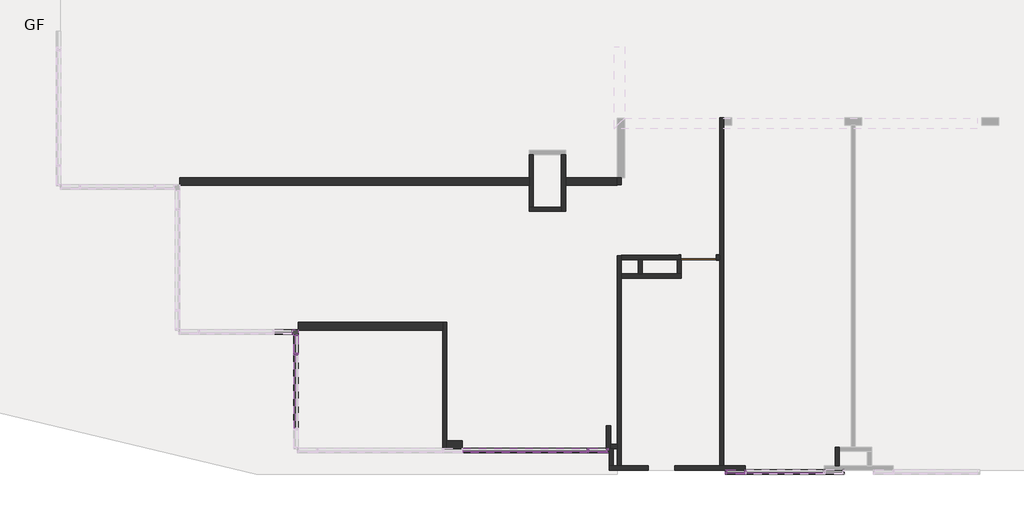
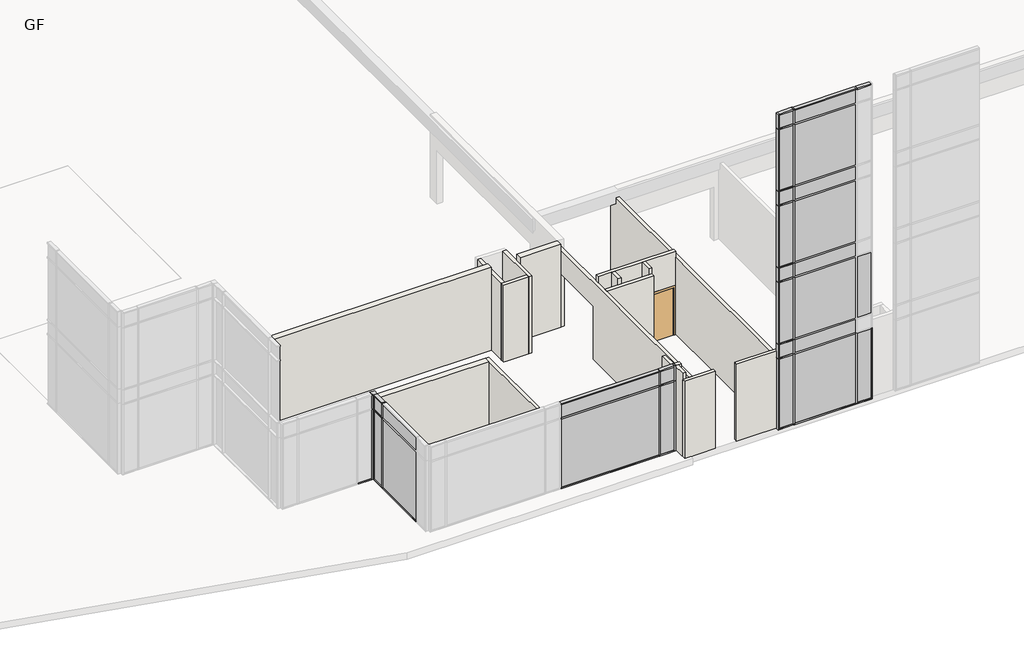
# One storey, part 3 of 23: 50 members, 26 plates, 20 walls, 1 door.
"""IFC4 building model written with IfcOpenShell, lengths in millimetres."""

from ifc_helpers import new_model, si_unit, frame, origin, place, context, project, spatial, polyline, outline, extrude, faceted_brep, transform, mapped, element, save
from components import m_single_flush_d_1200x2150_085a39eb, l_corner_mullion_l_mullion_1_2b73dffd, l_corner_mullion_l_mullion_1_b99bcffd, rectangular_mullion_50_x_150mm_64d38db8, rectangular_mullion_50_x_150mm_68b3818a, rectangular_mullion_50_x_150mm_b34d1ea9, rectangular_mullion_50_x_150mm_0240cd64, rectangular_mullion_50_x_150mm_350c86c2, rectangular_mullion_50_x_150mm_f245f1eb, rectangular_mullion_50_x_150mm_d11e3bb4, rectangular_mullion_50_x_150mm_7d543e93, rectangular_mullion_50_x_150mm_9e0f1e24, rectangular_mullion_50_x_150mm_a95743fc, rectangular_mullion_50_x_150mm_dbb82e9e, rectangular_mullion_50_x_150mm_9b8962c0, rectangular_mullion_50_x_150mm_32aaa733, rectangular_mullion_50_x_150mm_eae7d4bc, rectangular_mullion_50_x_150mm_8786dd09, rectangular_mullion_50_x_150mm_eaf4cf72, system_panel_glazed_24812111, system_panel_glazed_f9f902e6, system_panel_glazed_bf1ddb54, system_panel_glazed_6ff5b55b, system_panel_glazed_2a2db0e8, system_panel_glazed_93ed122c, system_panel_glazed_c1421171, system_panel_glazed_a7232eb8, system_panel_glazed_2ee935f9, system_panel_glazed_98bb05ca, system_panel_glazed_9694b00d, system_panel_glazed_bcfc8d05, system_panel_glazed_5b8ccad9

model = new_model("IFC4")

# Units and contexts
model_context = context("Model", 3, world=origin())
ifc_project = project(units=[si_unit("LENGTHUNIT", "METRE", prefix="MILLI")], contexts=[model_context])

# Site, building, storey
site = spatial("IfcSite", under=ifc_project)
building = spatial("IfcBuilding", under=site)
storey = spatial("IfcBuildingStorey", under=building, Name="GF", Elevation=900.0)

# Door
placement = place(None, origin())
m_single_flush_d_1200x2150_shape = m_single_flush_d_1200x2150_085a39eb(model_context)
element("IfcDoor", 1, ObjectType="M_Single-Flush : D-1200x2150", at=placement, inside=storey, context=model_context, shape_type="MappedRepresentation", body=[
    mapped(m_single_flush_d_1200x2150_shape, transform((-18037.5865899, -18671.6148653, 900.0), x_axis=(1.0, 0.0, 0.0), y_axis=(0.0, 1.0, 0.0), z_axis=(0.0, 0.0, 1.0))),
])

# Members
l_corner_mullion_l_mullion_1_shape = l_corner_mullion_l_mullion_1_2b73dffd(model_context)
element("IfcMember", 2, ObjectType="L Corner Mullion : L Mullion 1", at=placement, inside=storey, context=model_context, shape_type="MappedRepresentation", body=[
    mapped(l_corner_mullion_l_mullion_1_shape, transform((-31612.5865899, -21172.6148653, 4750.0), x_axis=(0.0, 1.0, 0.0), y_axis=(-1.0, 0.0, 0.0), z_axis=(0.0, 0.0, 1.0))),
])
l_corner_mullion_l_mullion_1_2_shape = l_corner_mullion_l_mullion_1_b99bcffd(model_context)
element("IfcMember", 3, ObjectType="L Corner Mullion : L Mullion 1", at=placement, inside=storey, context=model_context, shape_type="MappedRepresentation", body=[
    mapped(l_corner_mullion_l_mullion_1_2_shape, transform((-31612.5865899, -21172.6148653, 4075.0), x_axis=(0.0, 1.0, 0.0), y_axis=(-1.0, 0.0, 0.0), z_axis=(0.0, 0.0, 1.0))),
])
rectangular_mullion_50_x_150mm_shape = rectangular_mullion_50_x_150mm_64d38db8(model_context)
element("IfcMember", 4, ObjectType="Rectangular Mullion : 50 x 150mm", at=placement, inside=storey, context=model_context, shape_type="MappedRepresentation", body=[
    mapped(rectangular_mullion_50_x_150mm_shape, transform((-13172.5865899, -25897.6148653, 15125.0), x_axis=(0.0, 0.0, 1.0), y_axis=(0.0, -1.0, 0.0), z_axis=(1.0, 0.0, 0.0))),
])
element("IfcMember", 5, ObjectType="Rectangular Mullion : 50 x 150mm", at=placement, inside=storey, context=model_context, shape_type="MappedRepresentation", body=[
    mapped(rectangular_mullion_50_x_150mm_shape, transform((-16487.5865899, -25897.6148653, 15125.0), x_axis=(0.0, 0.0, 1.0), y_axis=(0.0, -1.0, 0.0), z_axis=(1.0, 0.0, 0.0))),
])
element("IfcMember", 6, ObjectType="Rectangular Mullion : 50 x 150mm", at=placement, inside=storey, context=model_context, shape_type="MappedRepresentation", body=[
    mapped(rectangular_mullion_50_x_150mm_shape, transform((-17087.5865899, -25897.6148653, 900.0), x_axis=(0.0, 0.0, -1.0), y_axis=(0.0, -1.0, 0.0), z_axis=(-1.0, 0.0, 0.0))),
])
element("IfcMember", 7, ObjectType="Rectangular Mullion : 50 x 150mm", at=placement, inside=storey, context=model_context, shape_type="MappedRepresentation", body=[
    mapped(rectangular_mullion_50_x_150mm_shape, transform((-13772.5865899, -25897.6148653, 900.0), x_axis=(0.0, 0.0, -1.0), y_axis=(0.0, -1.0, 0.0), z_axis=(-1.0, 0.0, 0.0))),
])
rectangular_mullion_50_x_150mm_2_shape = rectangular_mullion_50_x_150mm_68b3818a(model_context)
element("IfcMember", 8, ObjectType="Rectangular Mullion : 50 x 150mm", at=placement, inside=storey, context=model_context, shape_type="MappedRepresentation", body=[
    mapped(rectangular_mullion_50_x_150mm_2_shape, transform((-16487.5865899, -25897.6148653, 4750.0), x_axis=(0.0, 0.0, 1.0), y_axis=(0.0, -1.0, 0.0), z_axis=(1.0, 0.0, 0.0))),
])
element("IfcMember", 9, ObjectType="Rectangular Mullion : 50 x 150mm", at=placement, inside=storey, context=model_context, shape_type="MappedRepresentation", body=[
    mapped(rectangular_mullion_50_x_150mm_2_shape, transform((-16487.5865899, -25897.6148653, 4100.0), x_axis=(0.0, 0.0, 1.0), y_axis=(0.0, -1.0, 0.0), z_axis=(1.0, 0.0, 0.0))),
])
element("IfcMember", 10, ObjectType="Rectangular Mullion : 50 x 150mm", at=placement, inside=storey, context=model_context, shape_type="MappedRepresentation", body=[
    mapped(rectangular_mullion_50_x_150mm_2_shape, transform((-16487.5865899, -25897.6148653, 8200.0), x_axis=(0.0, 0.0, 1.0), y_axis=(0.0, -1.0, 0.0), z_axis=(1.0, 0.0, 0.0))),
])
element("IfcMember", 11, ObjectType="Rectangular Mullion : 50 x 150mm", at=placement, inside=storey, context=model_context, shape_type="MappedRepresentation", body=[
    mapped(rectangular_mullion_50_x_150mm_2_shape, transform((-16487.5865899, -25897.6148653, 11650.0), x_axis=(0.0, 0.0, 1.0), y_axis=(0.0, -1.0, 0.0), z_axis=(1.0, 0.0, 0.0))),
])
element("IfcMember", 12, ObjectType="Rectangular Mullion : 50 x 150mm", at=placement, inside=storey, context=model_context, shape_type="MappedRepresentation", body=[
    mapped(rectangular_mullion_50_x_150mm_2_shape, transform((-16487.5865899, -25897.6148653, 7550.0), x_axis=(0.0, 0.0, 1.0), y_axis=(0.0, -1.0, 0.0), z_axis=(1.0, 0.0, 0.0))),
])
element("IfcMember", 13, ObjectType="Rectangular Mullion : 50 x 150mm", at=placement, inside=storey, context=model_context, shape_type="MappedRepresentation", body=[
    mapped(rectangular_mullion_50_x_150mm_2_shape, transform((-16487.5865899, -25897.6148653, 11000.0), x_axis=(0.0, 0.0, 1.0), y_axis=(0.0, -1.0, 0.0), z_axis=(1.0, 0.0, 0.0))),
])
element("IfcMember", 14, ObjectType="Rectangular Mullion : 50 x 150mm", at=placement, inside=storey, context=model_context, shape_type="MappedRepresentation", body=[
    mapped(rectangular_mullion_50_x_150mm_2_shape, transform((-16487.5865899, -25897.6148653, 14450.0), x_axis=(0.0, 0.0, 1.0), y_axis=(0.0, -1.0, 0.0), z_axis=(1.0, 0.0, 0.0))),
])
element("IfcMember", 15, ObjectType="Rectangular Mullion : 50 x 150mm", at=placement, inside=storey, context=model_context, shape_type="MappedRepresentation", body=[
    mapped(rectangular_mullion_50_x_150mm_2_shape, transform((-31612.5865899, -21897.6148653, 4075.0), x_axis=(0.0, 0.0, 1.0), y_axis=(-1.0, 0.0, 0.0), z_axis=(0.0, -1.0, 0.0))),
])
element("IfcMember", 16, ObjectType="Rectangular Mullion : 50 x 150mm", at=placement, inside=storey, context=model_context, shape_type="MappedRepresentation", body=[
    mapped(rectangular_mullion_50_x_150mm_shape, transform((-31737.5865899, -21172.6148653, 900.0), x_axis=(0.0, 0.0, -1.0), y_axis=(0.0, 1.0, 0.0), z_axis=(1.0, 0.0, 0.0))),
])
element("IfcMember", 17, ObjectType="Rectangular Mullion : 50 x 150mm", at=placement, inside=storey, context=model_context, shape_type="MappedRepresentation", body=[
    mapped(rectangular_mullion_50_x_150mm_2_shape, transform((-21742.5865899, -25172.6148653, 4075.0), x_axis=(0.0, 0.0, 1.0), y_axis=(0.0, 1.0, 0.0), z_axis=(-1.0, 0.0, 0.0))),
])
element("IfcMember", 18, ObjectType="Rectangular Mullion : 50 x 150mm", at=placement, inside=storey, context=model_context, shape_type="MappedRepresentation", body=[
    mapped(rectangular_mullion_50_x_150mm_shape, transform((-21742.5865899, -25172.6148653, 4750.0), x_axis=(0.0, 0.0, 1.0), y_axis=(0.0, 1.0, 0.0), z_axis=(-1.0, 0.0, 0.0))),
])
element("IfcMember", 19, ObjectType="Rectangular Mullion : 50 x 150mm", at=placement, inside=storey, context=model_context, shape_type="MappedRepresentation", body=[
    mapped(rectangular_mullion_50_x_150mm_shape, transform((-21142.5865899, -25172.6148653, 900.0), x_axis=(0.0, 0.0, -1.0), y_axis=(0.0, 1.0, 0.0), z_axis=(1.0, 0.0, 0.0))),
])
rectangular_mullion_50_x_150mm_3_shape = rectangular_mullion_50_x_150mm_b34d1ea9(model_context)
element("IfcMember", 20, ObjectType="Rectangular Mullion : 50 x 150mm", at=placement, inside=storey, context=model_context, shape_type="MappedRepresentation", body=[
    mapped(rectangular_mullion_50_x_150mm_3_shape, transform((-25977.5865899, -25172.6148653, 4750.0), x_axis=(0.0, 0.0, 1.0), y_axis=(0.0, 1.0, 0.0), z_axis=(-1.0, 0.0, 0.0))),
])
element("IfcMember", 21, ObjectType="Rectangular Mullion : 50 x 150mm", at=placement, inside=storey, context=model_context, shape_type="MappedRepresentation", body=[
    mapped(rectangular_mullion_50_x_150mm_3_shape, transform((-21792.5865899, -25172.6148653, 900.0), x_axis=(0.0, 0.0, -1.0), y_axis=(0.0, 1.0, 0.0), z_axis=(1.0, 0.0, 0.0))),
])
element("IfcMember", 22, ObjectType="Rectangular Mullion : 50 x 150mm", at=placement, inside=storey, context=model_context, shape_type="MappedRepresentation", body=[
    mapped(rectangular_mullion_50_x_150mm_shape, transform((-31612.5865899, -21897.6148653, 4750.0), x_axis=(0.0, 0.0, 1.0), y_axis=(-1.0, 0.0, 0.0), z_axis=(0.0, -1.0, 0.0))),
])
element("IfcMember", 23, ObjectType="Rectangular Mullion : 50 x 150mm", at=placement, inside=storey, context=model_context, shape_type="MappedRepresentation", body=[
    mapped(rectangular_mullion_50_x_150mm_shape, transform((-31612.5865899, -21297.6148653, 900.0), x_axis=(0.0, 0.0, -1.0), y_axis=(-1.0, 0.0, 0.0), z_axis=(0.0, 1.0, 0.0))),
])
rectangular_mullion_50_x_150mm_4_shape = rectangular_mullion_50_x_150mm_0240cd64(model_context)
element("IfcMember", 24, ObjectType="Rectangular Mullion : 50 x 150mm", at=placement, inside=storey, context=model_context, shape_type="MappedRepresentation", body=[
    mapped(rectangular_mullion_50_x_150mm_4_shape, transform((-31612.5865899, -21947.6148653, 900.0), x_axis=(0.0, 0.0, -1.0), y_axis=(-1.0, 0.0, 0.0), z_axis=(0.0, 1.0, 0.0))),
])
rectangular_mullion_50_x_150mm_5_shape = rectangular_mullion_50_x_150mm_350c86c2(model_context)
element("IfcMember", 25, ObjectType="Rectangular Mullion : 50 x 150mm", at=placement, inside=storey, context=model_context, shape_type="MappedRepresentation", body=[
    mapped(rectangular_mullion_50_x_150mm_5_shape, transform((-16437.5865899, -25897.6148653, 900.0), x_axis=(0.0, 0.0, -1.0), y_axis=(0.0, -1.0, 0.0), z_axis=(-1.0, 0.0, 0.0))),
])
rectangular_mullion_50_x_150mm_6_shape = rectangular_mullion_50_x_150mm_f245f1eb(model_context)
element("IfcMember", 26, ObjectType="Rectangular Mullion : 50 x 150mm", at=placement, inside=storey, context=model_context, shape_type="MappedRepresentation", body=[
    mapped(rectangular_mullion_50_x_150mm_6_shape, transform((-16462.5865899, -25897.6148653, 900.0), x_axis=(1.0, 0.0, 0.0), y_axis=(0.0, -1.0, 0.0), z_axis=(0.0, 0.0, -1.0))),
])
element("IfcMember", 27, ObjectType="Rectangular Mullion : 50 x 150mm", at=placement, inside=storey, context=model_context, shape_type="MappedRepresentation", body=[
    mapped(rectangular_mullion_50_x_150mm_6_shape, transform((-13797.5865899, -25897.6148653, 900.0), x_axis=(1.0, 0.0, 0.0), y_axis=(0.0, -1.0, 0.0), z_axis=(0.0, 0.0, -1.0))),
])
element("IfcMember", 28, ObjectType="Rectangular Mullion : 50 x 150mm", at=placement, inside=storey, context=model_context, shape_type="MappedRepresentation", body=[
    mapped(rectangular_mullion_50_x_150mm_5_shape, transform((-13822.5865899, -25897.6148653, 15125.0), x_axis=(0.0, 0.0, 1.0), y_axis=(0.0, -1.0, 0.0), z_axis=(1.0, 0.0, 0.0))),
])
rectangular_mullion_50_x_150mm_7_shape = rectangular_mullion_50_x_150mm_d11e3bb4(model_context)
element("IfcMember", 29, ObjectType="Rectangular Mullion : 50 x 150mm", at=placement, inside=storey, context=model_context, shape_type="MappedRepresentation", body=[
    mapped(rectangular_mullion_50_x_150mm_7_shape, transform((-16462.5865899, -25897.6148653, 4750.0), x_axis=(1.0, 0.0, 0.0), y_axis=(0.0, -1.0, 0.0), z_axis=(0.0, 0.0, -1.0))),
])
element("IfcMember", 30, ObjectType="Rectangular Mullion : 50 x 150mm", at=placement, inside=storey, context=model_context, shape_type="MappedRepresentation", body=[
    mapped(rectangular_mullion_50_x_150mm_7_shape, transform((-16462.5865899, -25897.6148653, 8200.0), x_axis=(1.0, 0.0, 0.0), y_axis=(0.0, -1.0, 0.0), z_axis=(0.0, 0.0, -1.0))),
])
element("IfcMember", 31, ObjectType="Rectangular Mullion : 50 x 150mm", at=placement, inside=storey, context=model_context, shape_type="MappedRepresentation", body=[
    mapped(rectangular_mullion_50_x_150mm_7_shape, transform((-16462.5865899, -25897.6148653, 11650.0), x_axis=(1.0, 0.0, 0.0), y_axis=(0.0, -1.0, 0.0), z_axis=(0.0, 0.0, -1.0))),
])
rectangular_mullion_50_x_150mm_8_shape = rectangular_mullion_50_x_150mm_7d543e93(model_context)
element("IfcMember", 32, ObjectType="Rectangular Mullion : 50 x 150mm", at=placement, inside=storey, context=model_context, shape_type="MappedRepresentation", body=[
    mapped(rectangular_mullion_50_x_150mm_8_shape, transform((-16462.5865899, -25897.6148653, 4100.0), x_axis=(1.0, 0.0, 0.0), y_axis=(0.0, -1.0, 0.0), z_axis=(0.0, 0.0, -1.0))),
])
element("IfcMember", 33, ObjectType="Rectangular Mullion : 50 x 150mm", at=placement, inside=storey, context=model_context, shape_type="MappedRepresentation", body=[
    mapped(rectangular_mullion_50_x_150mm_8_shape, transform((-16462.5865899, -25897.6148653, 7550.0), x_axis=(1.0, 0.0, 0.0), y_axis=(0.0, -1.0, 0.0), z_axis=(0.0, 0.0, -1.0))),
])
element("IfcMember", 34, ObjectType="Rectangular Mullion : 50 x 150mm", at=placement, inside=storey, context=model_context, shape_type="MappedRepresentation", body=[
    mapped(rectangular_mullion_50_x_150mm_8_shape, transform((-16462.5865899, -25897.6148653, 11000.0), x_axis=(1.0, 0.0, 0.0), y_axis=(0.0, -1.0, 0.0), z_axis=(0.0, 0.0, -1.0))),
])
rectangular_mullion_50_x_150mm_9_shape = rectangular_mullion_50_x_150mm_9e0f1e24(model_context)
element("IfcMember", 35, ObjectType="Rectangular Mullion : 50 x 150mm", at=placement, inside=storey, context=model_context, shape_type="MappedRepresentation", body=[
    mapped(rectangular_mullion_50_x_150mm_9_shape, transform((-16462.5865899, -25897.6148653, 14450.0), x_axis=(1.0, 0.0, 0.0), y_axis=(0.0, -1.0, 0.0), z_axis=(0.0, 0.0, -1.0))),
])
element("IfcMember", 36, ObjectType="Rectangular Mullion : 50 x 150mm", at=placement, inside=storey, context=model_context, shape_type="MappedRepresentation", body=[
    mapped(rectangular_mullion_50_x_150mm_9_shape, transform((-31612.5865899, -21922.6148653, 4075.0), x_axis=(0.0, -1.0, 0.0), y_axis=(-1.0, 0.0, 0.0), z_axis=(0.0, 0.0, -1.0))),
])
rectangular_mullion_50_x_150mm_10_shape = rectangular_mullion_50_x_150mm_a95743fc(model_context)
element("IfcMember", 37, ObjectType="Rectangular Mullion : 50 x 150mm", at=placement, inside=storey, context=model_context, shape_type="MappedRepresentation", body=[
    mapped(rectangular_mullion_50_x_150mm_10_shape, transform((-13122.5865899, -25897.6148653, 900.0), x_axis=(1.0, 0.0, 0.0), y_axis=(0.0, -1.0, 0.0), z_axis=(0.0, 0.0, -1.0))),
])
rectangular_mullion_50_x_150mm_11_shape = rectangular_mullion_50_x_150mm_dbb82e9e(model_context)
element("IfcMember", 38, ObjectType="Rectangular Mullion : 50 x 150mm", at=placement, inside=storey, context=model_context, shape_type="MappedRepresentation", body=[
    mapped(rectangular_mullion_50_x_150mm_11_shape, transform((-17137.5865899, -25897.6148653, 15125.0), x_axis=(-1.0, 0.0, 0.0), y_axis=(0.0, -1.0, 0.0), z_axis=(0.0, 0.0, 1.0))),
])
rectangular_mullion_50_x_150mm_12_shape = rectangular_mullion_50_x_150mm_9b8962c0(model_context)
element("IfcMember", 39, ObjectType="Rectangular Mullion : 50 x 150mm", at=placement, inside=storey, context=model_context, shape_type="MappedRepresentation", body=[
    mapped(rectangular_mullion_50_x_150mm_12_shape, transform((-17137.5865899, -25897.6148653, 4750.0), x_axis=(-1.0, 0.0, 0.0), y_axis=(0.0, -1.0, 0.0), z_axis=(0.0, 0.0, 1.0))),
])
element("IfcMember", 40, ObjectType="Rectangular Mullion : 50 x 150mm", at=placement, inside=storey, context=model_context, shape_type="MappedRepresentation", body=[
    mapped(rectangular_mullion_50_x_150mm_12_shape, transform((-17137.5865899, -25897.6148653, 8200.0), x_axis=(-1.0, 0.0, 0.0), y_axis=(0.0, -1.0, 0.0), z_axis=(0.0, 0.0, 1.0))),
])
element("IfcMember", 41, ObjectType="Rectangular Mullion : 50 x 150mm", at=placement, inside=storey, context=model_context, shape_type="MappedRepresentation", body=[
    mapped(rectangular_mullion_50_x_150mm_12_shape, transform((-17137.5865899, -25897.6148653, 11650.0), x_axis=(-1.0, 0.0, 0.0), y_axis=(0.0, -1.0, 0.0), z_axis=(0.0, 0.0, 1.0))),
])
element("IfcMember", 42, ObjectType="Rectangular Mullion : 50 x 150mm", at=placement, inside=storey, context=model_context, shape_type="MappedRepresentation", body=[
    mapped(rectangular_mullion_50_x_150mm_10_shape, transform((-17137.5865899, -25897.6148653, 4100.0), x_axis=(-1.0, 0.0, 0.0), y_axis=(0.0, -1.0, 0.0), z_axis=(0.0, 0.0, 1.0))),
])
rectangular_mullion_50_x_150mm_13_shape = rectangular_mullion_50_x_150mm_32aaa733(model_context)
element("IfcMember", 43, ObjectType="Rectangular Mullion : 50 x 150mm", at=placement, inside=storey, context=model_context, shape_type="MappedRepresentation", body=[
    mapped(rectangular_mullion_50_x_150mm_13_shape, transform((-17137.5865899, -25897.6148653, 7550.0), x_axis=(-1.0, 0.0, 0.0), y_axis=(0.0, -1.0, 0.0), z_axis=(0.0, 0.0, 1.0))),
])
element("IfcMember", 44, ObjectType="Rectangular Mullion : 50 x 150mm", at=placement, inside=storey, context=model_context, shape_type="MappedRepresentation", body=[
    mapped(rectangular_mullion_50_x_150mm_13_shape, transform((-17137.5865899, -25897.6148653, 11000.0), x_axis=(-1.0, 0.0, 0.0), y_axis=(0.0, -1.0, 0.0), z_axis=(0.0, 0.0, 1.0))),
])
element("IfcMember", 45, ObjectType="Rectangular Mullion : 50 x 150mm", at=placement, inside=storey, context=model_context, shape_type="MappedRepresentation", body=[
    mapped(rectangular_mullion_50_x_150mm_13_shape, transform((-17137.5865899, -25897.6148653, 14450.0), x_axis=(-1.0, 0.0, 0.0), y_axis=(0.0, -1.0, 0.0), z_axis=(0.0, 0.0, 1.0))),
])
element("IfcMember", 46, ObjectType="Rectangular Mullion : 50 x 150mm", at=placement, inside=storey, context=model_context, shape_type="MappedRepresentation", body=[
    mapped(rectangular_mullion_50_x_150mm_11_shape, transform((-21092.5865899, -25172.6148653, 4750.0), x_axis=(1.0, 0.0, 0.0), y_axis=(0.0, 1.0, 0.0), z_axis=(0.0, 0.0, 1.0))),
])
element("IfcMember", 47, ObjectType="Rectangular Mullion : 50 x 150mm", at=placement, inside=storey, context=model_context, shape_type="MappedRepresentation", body=[
    mapped(rectangular_mullion_50_x_150mm_9_shape, transform((-21767.5865899, -25172.6148653, 4075.0), x_axis=(-1.0, 0.0, 0.0), y_axis=(0.0, 1.0, 0.0), z_axis=(0.0, 0.0, -1.0))),
])
rectangular_mullion_50_x_150mm_14_shape = rectangular_mullion_50_x_150mm_eae7d4bc(model_context)
element("IfcMember", 48, ObjectType="Rectangular Mullion : 50 x 150mm", at=placement, inside=storey, context=model_context, shape_type="MappedRepresentation", body=[
    mapped(rectangular_mullion_50_x_150mm_14_shape, transform((-21767.5865899, -25172.6148653, 900.0), x_axis=(-1.0, 0.0, 0.0), y_axis=(0.0, 1.0, 0.0), z_axis=(0.0, 0.0, -1.0))),
])
element("IfcMember", 49, ObjectType="Rectangular Mullion : 50 x 150mm", at=placement, inside=storey, context=model_context, shape_type="MappedRepresentation", body=[
    mapped(rectangular_mullion_50_x_150mm_14_shape, transform((-31612.5865899, -21922.6148653, 900.0), x_axis=(0.0, -1.0, 0.0), y_axis=(-1.0, 0.0, 0.0), z_axis=(0.0, 0.0, -1.0))),
])
rectangular_mullion_50_x_150mm_15_shape = rectangular_mullion_50_x_150mm_8786dd09(model_context)
element("IfcMember", 50, ObjectType="Rectangular Mullion : 50 x 150mm", at=placement, inside=storey, context=model_context, shape_type="MappedRepresentation", body=[
    mapped(rectangular_mullion_50_x_150mm_15_shape, transform((-25977.5865899, -25172.6148653, 4075.0), x_axis=(0.0, 0.0, 1.0), y_axis=(0.0, 1.0, 0.0), z_axis=(-1.0, 0.0, 0.0))),
])
rectangular_mullion_50_x_150mm_16_shape = rectangular_mullion_50_x_150mm_eaf4cf72(model_context)
element("IfcMember", 51, ObjectType="Rectangular Mullion : 50 x 150mm", at=placement, inside=storey, context=model_context, shape_type="MappedRepresentation", body=[
    mapped(rectangular_mullion_50_x_150mm_16_shape, transform((-21092.5865899, -25172.6148653, 4075.0), x_axis=(1.0, 0.0, 0.0), y_axis=(0.0, 1.0, 0.0), z_axis=(0.0, 0.0, 1.0))),
])

# Plates
system_panel_glazed_shape = system_panel_glazed_24812111(model_context)
element("IfcPlate", 52, ObjectType="System Panel : Glazed", at=placement, inside=storey, context=model_context, shape_type="MappedRepresentation", body=[
    mapped(system_panel_glazed_shape, transform((-21442.5865899, -25172.6148653, 4100.0), x_axis=(-1.0, 0.0, 0.0), y_axis=(0.0, -1.0, 0.0), z_axis=(0.0, 0.0, 1.0))),
])
system_panel_glazed_2_shape = system_panel_glazed_f9f902e6(model_context)
element("IfcPlate", 53, ObjectType="System Panel : Glazed", at=placement, inside=storey, context=model_context, shape_type="MappedRepresentation", body=[
    mapped(system_panel_glazed_2_shape, transform((-16787.5865899, -25897.6148653, 950.0), x_axis=(1.0, 0.0, 0.0), y_axis=(0.0, 1.0, 0.0), z_axis=(0.0, 0.0, 1.0))),
])
element("IfcPlate", 54, ObjectType="System Panel : Glazed", at=placement, inside=storey, context=model_context, shape_type="MappedRepresentation", body=[
    mapped(system_panel_glazed_2_shape, transform((-13472.5865899, -25897.6148653, 950.0), x_axis=(1.0, 0.0, 0.0), y_axis=(0.0, 1.0, 0.0), z_axis=(0.0, 0.0, 1.0))),
])
system_panel_glazed_3_shape = system_panel_glazed_bf1ddb54(model_context)
element("IfcPlate", 55, ObjectType="System Panel : Glazed", at=placement, inside=storey, context=model_context, shape_type="MappedRepresentation", body=[
    mapped(system_panel_glazed_3_shape, transform((-15130.0865899, -25897.6148653, 950.0), x_axis=(1.0, 0.0, 0.0), y_axis=(0.0, 1.0, 0.0), z_axis=(0.0, 0.0, 1.0))),
])
system_panel_glazed_4_shape = system_panel_glazed_6ff5b55b(model_context)
element("IfcPlate", 56, ObjectType="System Panel : Glazed", at=placement, inside=storey, context=model_context, shape_type="MappedRepresentation", body=[
    mapped(system_panel_glazed_4_shape, transform((-16787.5865899, -25897.6148653, 4775.0), x_axis=(1.0, 0.0, 0.0), y_axis=(0.0, 1.0, 0.0), z_axis=(0.0, 0.0, 1.0))),
])
element("IfcPlate", 57, ObjectType="System Panel : Glazed", at=placement, inside=storey, context=model_context, shape_type="MappedRepresentation", body=[
    mapped(system_panel_glazed_4_shape, transform((-13472.5865899, -25897.6148653, 4775.0), x_axis=(1.0, 0.0, 0.0), y_axis=(0.0, 1.0, 0.0), z_axis=(0.0, 0.0, 1.0))),
])
element("IfcPlate", 58, ObjectType="System Panel : Glazed", at=placement, inside=storey, context=model_context, shape_type="MappedRepresentation", body=[
    mapped(system_panel_glazed_4_shape, transform((-16787.5865899, -25897.6148653, 8225.0), x_axis=(1.0, 0.0, 0.0), y_axis=(0.0, 1.0, 0.0), z_axis=(0.0, 0.0, 1.0))),
])
element("IfcPlate", 59, ObjectType="System Panel : Glazed", at=placement, inside=storey, context=model_context, shape_type="MappedRepresentation", body=[
    mapped(system_panel_glazed_4_shape, transform((-16787.5865899, -25897.6148653, 11675.0), x_axis=(1.0, 0.0, 0.0), y_axis=(0.0, 1.0, 0.0), z_axis=(0.0, 0.0, 1.0))),
])
system_panel_glazed_5_shape = system_panel_glazed_2a2db0e8(model_context)
element("IfcPlate", 60, ObjectType="System Panel : Glazed", at=placement, inside=storey, context=model_context, shape_type="MappedRepresentation", body=[
    mapped(system_panel_glazed_5_shape, transform((-15130.0865899, -25897.6148653, 4775.0), x_axis=(1.0, 0.0, 0.0), y_axis=(0.0, 1.0, 0.0), z_axis=(0.0, 0.0, 1.0))),
])
element("IfcPlate", 61, ObjectType="System Panel : Glazed", at=placement, inside=storey, context=model_context, shape_type="MappedRepresentation", body=[
    mapped(system_panel_glazed_5_shape, transform((-15130.0865899, -25897.6148653, 8225.0), x_axis=(1.0, 0.0, 0.0), y_axis=(0.0, 1.0, 0.0), z_axis=(0.0, 0.0, 1.0))),
])
element("IfcPlate", 62, ObjectType="System Panel : Glazed", at=placement, inside=storey, context=model_context, shape_type="MappedRepresentation", body=[
    mapped(system_panel_glazed_5_shape, transform((-15130.0865899, -25897.6148653, 11675.0), x_axis=(1.0, 0.0, 0.0), y_axis=(0.0, 1.0, 0.0), z_axis=(0.0, 0.0, 1.0))),
])
system_panel_glazed_6_shape = system_panel_glazed_93ed122c(model_context)
element("IfcPlate", 63, ObjectType="System Panel : Glazed", at=placement, inside=storey, context=model_context, shape_type="MappedRepresentation", body=[
    mapped(system_panel_glazed_6_shape, transform((-16787.5865899, -25897.6148653, 4125.0), x_axis=(1.0, 0.0, 0.0), y_axis=(0.0, 1.0, 0.0), z_axis=(0.0, 0.0, 1.0))),
])
element("IfcPlate", 64, ObjectType="System Panel : Glazed", at=placement, inside=storey, context=model_context, shape_type="MappedRepresentation", body=[
    mapped(system_panel_glazed_6_shape, transform((-16787.5865899, -25897.6148653, 7575.0), x_axis=(1.0, 0.0, 0.0), y_axis=(0.0, 1.0, 0.0), z_axis=(0.0, 0.0, 1.0))),
])
element("IfcPlate", 65, ObjectType="System Panel : Glazed", at=placement, inside=storey, context=model_context, shape_type="MappedRepresentation", body=[
    mapped(system_panel_glazed_6_shape, transform((-16787.5865899, -25897.6148653, 11025.0), x_axis=(1.0, 0.0, 0.0), y_axis=(0.0, 1.0, 0.0), z_axis=(0.0, 0.0, 1.0))),
])
element("IfcPlate", 66, ObjectType="System Panel : Glazed", at=placement, inside=storey, context=model_context, shape_type="MappedRepresentation", body=[
    mapped(system_panel_glazed_6_shape, transform((-16787.5865899, -25897.6148653, 14475.0), x_axis=(1.0, 0.0, 0.0), y_axis=(0.0, 1.0, 0.0), z_axis=(0.0, 0.0, 1.0))),
])
element("IfcPlate", 67, ObjectType="System Panel : Glazed", at=placement, inside=storey, context=model_context, shape_type="MappedRepresentation", body=[
    mapped(system_panel_glazed_6_shape, transform((-31612.5865899, -21597.6148653, 4100.0), x_axis=(0.0, -1.0, 0.0), y_axis=(1.0, 0.0, 0.0), z_axis=(0.0, 0.0, 1.0))),
])
system_panel_glazed_7_shape = system_panel_glazed_c1421171(model_context)
element("IfcPlate", 68, ObjectType="System Panel : Glazed", at=placement, inside=storey, context=model_context, shape_type="MappedRepresentation", body=[
    mapped(system_panel_glazed_7_shape, transform((-15130.0865899, -25897.6148653, 4125.0), x_axis=(1.0, 0.0, 0.0), y_axis=(0.0, 1.0, 0.0), z_axis=(0.0, 0.0, 1.0))),
])
element("IfcPlate", 69, ObjectType="System Panel : Glazed", at=placement, inside=storey, context=model_context, shape_type="MappedRepresentation", body=[
    mapped(system_panel_glazed_7_shape, transform((-15130.0865899, -25897.6148653, 7575.0), x_axis=(1.0, 0.0, 0.0), y_axis=(0.0, 1.0, 0.0), z_axis=(0.0, 0.0, 1.0))),
])
element("IfcPlate", 70, ObjectType="System Panel : Glazed", at=placement, inside=storey, context=model_context, shape_type="MappedRepresentation", body=[
    mapped(system_panel_glazed_7_shape, transform((-15130.0865899, -25897.6148653, 11025.0), x_axis=(1.0, 0.0, 0.0), y_axis=(0.0, 1.0, 0.0), z_axis=(0.0, 0.0, 1.0))),
])
element("IfcPlate", 71, ObjectType="System Panel : Glazed", at=placement, inside=storey, context=model_context, shape_type="MappedRepresentation", body=[
    mapped(system_panel_glazed_7_shape, transform((-15130.0865899, -25897.6148653, 14475.0), x_axis=(1.0, 0.0, 0.0), y_axis=(0.0, 1.0, 0.0), z_axis=(0.0, 0.0, 1.0))),
])
system_panel_glazed_8_shape = system_panel_glazed_a7232eb8(model_context)
element("IfcPlate", 72, ObjectType="System Panel : Glazed", at=placement, inside=storey, context=model_context, shape_type="MappedRepresentation", body=[
    mapped(system_panel_glazed_8_shape, transform((-21442.5865899, -25172.6148653, 950.0), x_axis=(-1.0, 0.0, 0.0), y_axis=(0.0, -1.0, 0.0), z_axis=(0.0, 0.0, 1.0))),
])
system_panel_glazed_9_shape = system_panel_glazed_2ee935f9(model_context)
element("IfcPlate", 73, ObjectType="System Panel : Glazed", at=placement, inside=storey, context=model_context, shape_type="MappedRepresentation", body=[
    mapped(system_panel_glazed_9_shape, transform((-31612.5865899, -21597.6148653, 950.0), x_axis=(0.0, -1.0, 0.0), y_axis=(1.0, 0.0, 0.0), z_axis=(0.0, 0.0, 1.0))),
])
system_panel_glazed_10_shape = system_panel_glazed_98bb05ca(model_context)
element("IfcPlate", 74, ObjectType="System Panel : Glazed", at=placement, inside=storey, context=model_context, shape_type="MappedRepresentation", body=[
    mapped(system_panel_glazed_10_shape, transform((-31612.5865899, -23185.1148653, 950.0), x_axis=(0.0, -1.0, 0.0), y_axis=(1.0, 0.0, 0.0), z_axis=(0.0, 0.0, 1.0))),
])
system_panel_glazed_11_shape = system_panel_glazed_9694b00d(model_context)
element("IfcPlate", 75, ObjectType="System Panel : Glazed", at=placement, inside=storey, context=model_context, shape_type="MappedRepresentation", body=[
    mapped(system_panel_glazed_11_shape, transform((-31612.5865899, -23185.1148653, 4100.0), x_axis=(0.0, -1.0, 0.0), y_axis=(1.0, 0.0, 0.0), z_axis=(0.0, 0.0, 1.0))),
])
system_panel_glazed_12_shape = system_panel_glazed_bcfc8d05(model_context)
element("IfcPlate", 76, ObjectType="System Panel : Glazed", at=placement, inside=storey, context=model_context, shape_type="MappedRepresentation", body=[
    mapped(system_panel_glazed_12_shape, transform((-23885.0865899, -25172.6148653, 950.0), x_axis=(-1.0, 0.0, 0.0), y_axis=(0.0, -1.0, 0.0), z_axis=(0.0, 0.0, 1.0))),
])
system_panel_glazed_13_shape = system_panel_glazed_5b8ccad9(model_context)
element("IfcPlate", 77, ObjectType="System Panel : Glazed", at=placement, inside=storey, context=model_context, shape_type="MappedRepresentation", body=[
    mapped(system_panel_glazed_13_shape, transform((-23885.0865899, -25172.6148653, 4100.0), x_axis=(-1.0, 0.0, 0.0), y_axis=(0.0, -1.0, 0.0), z_axis=(0.0, 0.0, 1.0))),
])

# Walls
element("IfcWall", 78, ObjectType="wall-115", at=placement, inside=storey, context=model_context, shape_type="Brep", body=[
    faceted_brep([(-26525.5865899, -25109.6148653, 900.0), (-26525.5865899, -24852.6148653, 900.0), (-26525.5865899, -20855.6148653, 900.0), (-26525.5865899, -20855.6148653, 4375.0), (-26525.5865899, -24852.6148653, 4375.0), (-26525.5865899, -25109.6148653, 4375.0), (-26667.5865899, -25109.6148653, 900.0), (-26667.5865899, -25109.6148653, 4375.0), (-26667.5865899, -21112.6148653, 4375.0), (-26667.5865899, -20855.6148653, 4375.0), (-26667.5865899, -20855.6148653, 900.0), (-26667.5865899, -21112.6148653, 900.0)], [[[0, 1, 2, 3, 4, 5]], [[6, 7, 8, 9, 10, 11]], [[2, 1, 0, 6, 11, 10]], [[3, 2, 10, 9]], [[0, 5, 7, 6]], [[5, 4, 3, 9, 8, 7]]]),
])
element("IfcWall", 79, ObjectType="wall-115", at=placement, inside=storey, context=model_context, shape_type="Brep", body=[
    faceted_brep([(-17192.5865899, -25692.6148653, 900.0), (-17192.5865899, -14217.6148653, 900.0), (-17192.5865899, -13960.6148653, 900.0), (-17192.5865899, -13960.6148653, 4375.0), (-17192.5865899, -25692.6148653, 4375.0), (-17334.5865899, -25692.6148653, 900.0), (-17334.5865899, -25692.6148653, 4375.0), (-17334.5865899, -13960.6148653, 4375.0), (-17334.5865899, -13960.6148653, 900.0), (-17334.5865899, -18600.6148653, 900.0), (-17334.5865899, -18742.6148653, 900.0)], [[[0, 1, 2, 3, 4]], [[5, 6, 7, 8, 9, 10]], [[2, 1, 0, 5, 10, 9, 8]], [[3, 2, 8, 7]], [[0, 4, 6, 5]], [[4, 3, 7, 6]]]),
])
element("IfcWall", 80, ObjectType="wall-115", at=placement, inside=storey, context=model_context, shape_type="Brep", body=[
    faceted_brep([(-18625.5865899, -19217.6148653, 900.0), (-18767.5865899, -19217.6148653, 900.0), (-19937.5865899, -19217.6148653, 900.0), (-20079.5865899, -19217.6148653, 900.0), (-20640.5865899, -19217.6148653, 900.0), (-20640.5865899, -19217.6148653, 4375.0), (-18625.5865899, -19217.6148653, 4375.0), (-18625.5865899, -19359.6148653, 900.0), (-18625.5865899, -19359.6148653, 4375.0), (-20640.5865899, -19359.6148653, 4375.0), (-20640.5865899, -19359.6148653, 900.0)], [[[0, 1, 2, 3, 4, 5, 6]], [[7, 8, 9, 10]], [[4, 3, 2, 1, 0, 7, 10]], [[0, 6, 8, 7]], [[5, 4, 10, 9]], [[6, 5, 9, 8]]]),
])
element("IfcWall", 81, ObjectType="wall-115", at=placement, inside=storey, context=model_context, shape_type="Brep", body=[
    faceted_brep([(-20782.5865899, -15980.6148653, 4375.0), (-20782.5865899, -15980.6148653, 900.0), (-20782.5865899, -16222.6148653, 900.0), (-20782.5865899, -16222.6148653, 3300.0), (-20782.5865899, -18612.6148653, 3300.0), (-20782.5865899, -18612.6148653, 900.0), (-20782.5865899, -24969.1148653, 900.0), (-20782.5865899, -25111.1148653, 900.0), (-20782.5865899, -25692.6148653, 900.0), (-20782.5865899, -25692.6148653, 4375.0), (-20640.5865899, -15980.6148653, 900.0), (-20640.5865899, -15980.6148653, 4375.0), (-20640.5865899, -19217.6148653, 4375.0), (-20640.5865899, -19359.6148653, 4375.0), (-20640.5865899, -25692.6148653, 4375.0), (-20640.5865899, -25692.6148653, 900.0), (-20640.5865899, -19359.6148653, 900.0), (-20640.5865899, -19217.6148653, 900.0), (-20640.5865899, -18742.6148653, 900.0), (-20640.5865899, -18612.6148653, 900.0), (-20640.5865899, -18612.6148653, 3300.0), (-20640.5865899, -16222.6148653, 3300.0), (-20640.5865899, -16222.6148653, 900.0)], [[[0, 1, 2, 3, 4, 5, 6, 7, 8, 9]], [[10, 11, 12, 13, 14, 15, 16, 17, 18, 19, 20, 21, 22]], [[1, 10, 22, 2]], [[15, 8, 7, 6, 5, 19, 18, 17, 16]], [[1, 0, 11, 10]], [[9, 8, 15, 14]], [[0, 9, 14, 13, 12, 11]], [[20, 4, 3, 21]], [[21, 3, 2, 22]], [[4, 20, 19, 5]]]),
])
element("IfcWall", 82, ObjectType="wall-115", at=placement, inside=storey, context=model_context, shape_type="Brep", body=[
    faceted_brep([(-23747.5865898, -15199.6310718, 900.0), (-23747.5865898, -15980.6148653, 900.0), (-23747.5865898, -16237.6148653, 900.0), (-23747.5865898, -16972.6148653, 900.0), (-23747.5865898, -16972.6148653, 4375.0), (-23747.5865898, -15199.6310718, 4375.0), (-23605.5865898, -15199.6310718, 900.0), (-23605.5865898, -15199.6310718, 4375.0), (-23605.5865898, -16972.6148653, 4375.0), (-23605.5865898, -16972.6148653, 900.0)], [[[0, 1, 2, 3, 4, 5]], [[6, 7, 8, 9]], [[3, 2, 1, 0, 6, 9]], [[0, 5, 7, 6]], [[4, 3, 9, 8]], [[5, 4, 8, 7]]]),
])
element("IfcWall", 83, ObjectType="wall-115", at=placement, inside=storey, context=model_context, shape_type="Brep", body=[
    faceted_brep([(-22667.5865898, -15199.6310718, 900.0), (-22667.5865898, -16972.6148653, 900.0), (-22667.5865898, -17114.6148653, 900.0), (-22667.5865898, -17114.6148653, 4375.0), (-22667.5865898, -16972.6148653, 4375.0), (-22667.5865898, -15199.6310718, 4375.0), (-22525.5865898, -15199.6310718, 900.0), (-22525.5865898, -15199.6310718, 4375.0), (-22525.5865898, -17114.6148653, 4375.0), (-22525.5865898, -17114.6148653, 900.0), (-22525.5865898, -16237.6148653, 900.0), (-22525.5865898, -15980.6148653, 900.0)], [[[0, 1, 2, 3, 4, 5]], [[6, 7, 8, 9, 10, 11]], [[2, 1, 0, 6, 11, 10, 9]], [[3, 2, 9, 8]], [[0, 5, 7, 6]], [[5, 4, 3, 8, 7]]]),
])
element("IfcWall", 84, ObjectType="wall-115", at=placement, inside=storey, context=model_context, shape_type="Brep", body=[
    faceted_brep([(-22667.5865898, -16972.6148653, 900.0), (-23605.5865898, -16972.6148653, 900.0), (-23747.5865898, -16972.6148653, 900.0), (-23747.5865898, -16972.6148653, 4375.0), (-23605.5865898, -16972.6148653, 4375.0), (-22667.5865898, -16972.6148653, 4375.0), (-22667.5865898, -17114.6148653, 900.0), (-22667.5865898, -17114.6148653, 4375.0), (-23747.5865898, -17114.6148653, 4375.0), (-23747.5865898, -17114.6148653, 900.0)], [[[0, 1, 2, 3, 4, 5]], [[6, 7, 8, 9]], [[2, 1, 0, 6, 9]], [[3, 2, 9, 8]], [[0, 5, 7, 6]], [[5, 4, 3, 8, 7]]]),
])
element("IfcWall", 85, ObjectType="wall-115", at=placement, inside=storey, context=model_context, shape_type="Brep", body=[
    faceted_brep([(-21051.0865899, -25834.6148653, 900.0), (-19737.5865899, -25834.6148653, 900.0), (-19737.5865899, -25834.6148653, 4375.0), (-21051.0865899, -25834.6148653, 4375.0), (-21051.0865899, -25692.6148653, 900.0), (-21051.0865899, -25692.6148653, 4375.0), (-20782.5865899, -25692.6148653, 4375.0), (-20640.5865899, -25692.6148653, 4375.0), (-19737.5865899, -25692.6148653, 4375.0), (-19737.5865899, -25692.6148653, 900.0), (-20640.5865899, -25692.6148653, 900.0), (-20782.5865899, -25692.6148653, 900.0), (-20909.0865899, -25692.6148653, 900.0)], [[[0, 1, 2, 3]], [[4, 5, 6, 7, 8, 9, 10, 11, 12]], [[1, 0, 4, 12, 11, 10, 9]], [[2, 1, 9, 8]], [[0, 3, 5, 4]], [[3, 2, 8, 7, 6, 5]]]),
])
element("IfcWall", 86, ObjectType="wall-115", at=placement, inside=storey, context=model_context, shape_type="Brep", body=[
    faceted_brep([(-13295.5865899, -25692.6148653, 900.0), (-13295.5865899, -25204.6148653, 900.0), (-13295.5865899, -25062.6148653, 900.0), (-13295.5865899, -25062.6148653, 4375.0), (-13295.5865899, -25204.6148653, 4375.0), (-13295.5865899, -25692.6148653, 4375.0), (-13437.5865899, -25692.6148653, 900.0), (-13437.5865899, -25692.6148653, 4375.0), (-13437.5865899, -25062.6148653, 4375.0), (-13437.5865899, -25062.6148653, 900.0)], [[[0, 1, 2, 3, 4, 5]], [[6, 7, 8, 9]], [[2, 1, 0, 6, 9]], [[3, 2, 9, 8]], [[0, 5, 7, 6]], [[5, 4, 3, 8, 7]]]),
])
element("IfcWall", 87, ObjectType="wall-115", at=placement, inside=storey, context=model_context, shape_type="Brep", body=[
    faceted_brep([(-18625.5865899, -19217.6148653, 900.0), (-18625.5865899, -18742.6148653, 900.0), (-18625.5865899, -18742.6148653, 4650.0), (-18625.5865899, -19217.6148653, 4650.0), (-18625.5865899, -19217.6148653, 4375.0), (-18767.5865899, -19217.6148653, 900.0), (-18767.5865899, -19217.6148653, 4650.0), (-18767.5865899, -18742.6148653, 4650.0), (-18767.5865899, -18742.6148653, 900.0)], [[[0, 1, 2, 3, 4]], [[5, 6, 7, 8]], [[1, 0, 5, 8]], [[3, 2, 7, 6]], [[2, 1, 8, 7]], [[0, 4, 3, 6, 5]]]),
])
element("IfcWall", 88, ObjectType="wall-115", at=placement, inside=storey, context=model_context, shape_type="Brep", body=[
    faceted_brep([(-20640.5865899, -18600.6148653, 4650.0), (-17334.5865899, -18600.6148653, 4650.0), (-17334.5865899, -18600.6148653, 900.0), (-17437.5865899, -18600.6148653, 900.0), (-17437.5865899, -18600.6148653, 3050.0), (-18637.5865899, -18600.6148653, 3050.0), (-18637.5865899, -18600.6148653, 900.0), (-20640.5865899, -18600.6148653, 900.0), (-17334.5865899, -18742.6148653, 4650.0), (-18625.5865899, -18742.6148653, 4650.0), (-18767.5865899, -18742.6148653, 4650.0), (-19937.5865899, -18742.6148653, 4650.0), (-20079.5865899, -18742.6148653, 4650.0), (-20640.5865899, -18742.6148653, 4650.0), (-20640.5865899, -18742.6148653, 900.0), (-20079.5865899, -18742.6148653, 900.0), (-19937.5865899, -18742.6148653, 900.0), (-18767.5865899, -18742.6148653, 900.0), (-18637.5865899, -18742.6148653, 900.0), (-18637.5865899, -18742.6148653, 3050.0), (-17437.5865899, -18742.6148653, 3050.0), (-17437.5865899, -18742.6148653, 900.0), (-17334.5865899, -18742.6148653, 900.0), (-20640.5865899, -18612.6148653, 900.0)], [[[0, 1, 2, 3, 4, 5, 6, 7]], [[8, 9, 10, 11, 12, 13, 14, 15, 16, 17, 18, 19, 20, 21, 22]], [[14, 23, 7, 6, 18, 17, 16, 15]], [[2, 22, 21, 3]], [[1, 0, 13, 12, 11, 10, 9, 8]], [[0, 7, 23, 14, 13]], [[2, 1, 8, 22]], [[20, 4, 3, 21]], [[4, 20, 19, 5]], [[5, 19, 18, 6]]]),
])
element("IfcWall", 89, ObjectType="wall-115", at=placement, inside=storey, context=model_context, shape_type="SweptSolid", body=[
    extrude(outline(polyline([(-20079.5865899, -19217.6148653), (-20079.5865899, -18742.6148653), (-19937.5865899, -18742.6148653), (-19937.5865899, -19217.6148653), (-20079.5865899, -19217.6148653)])), frame((0.0, 0.0, 900.0), z_axis=(0.0, 0.0, 1.0), x_axis=(1.0, 0.0, 0.0)), (0.0, 0.0, 1.0), 3750.0),
])
element("IfcWall", 90, ObjectType="wall-115", at=placement, inside=storey, context=model_context, shape_type="Brep", body=[
    faceted_brep([(-18837.5865899, -25834.6148653, 900.0), (-16462.5865899, -25834.6148653, 900.0), (-16462.5865899, -25834.6148653, 4375.0), (-18837.5865899, -25834.6148653, 4375.0), (-18837.5865899, -25692.6148653, 900.0), (-18837.5865899, -25692.6148653, 4375.0), (-17334.5865899, -25692.6148653, 4375.0), (-17192.5865899, -25692.6148653, 4375.0), (-16462.5865899, -25692.6148653, 4375.0), (-16462.5865899, -25692.6148653, 900.0), (-17192.5865899, -25692.6148653, 900.0), (-17334.5865899, -25692.6148653, 900.0)], [[[0, 1, 2, 3]], [[4, 5, 6, 7, 8, 9, 10, 11]], [[1, 0, 4, 11, 10, 9]], [[2, 1, 9, 8]], [[0, 3, 5, 4]], [[3, 2, 8, 7, 6, 5]]]),
])
element("IfcWall", 91, ObjectType="wall-115", at=placement, inside=storey, context=model_context, shape_type="Brep", body=[
    faceted_brep([(-21009.0865899, -25111.1148653, 900.0), (-21009.0865899, -24969.1148653, 900.0), (-21009.0865899, -24347.6148653, 900.0), (-21009.0865899, -24347.6148653, 4650.0), (-21009.0865899, -24969.1148653, 4650.0), (-21009.0865899, -25111.1148653, 4650.0), (-21151.0865899, -25111.1148653, 900.0), (-21151.0865899, -25111.1148653, 4650.0), (-21151.0865899, -24347.6148653, 4650.0), (-21151.0865899, -24347.6148653, 900.0), (-21051.0865899, -25111.1148653, 900.0), (-21051.0865899, -25111.1148653, 4650.0)], [[[0, 1, 2, 3, 4, 5]], [[6, 7, 8, 9]], [[2, 1, 0, 10, 6, 9]], [[3, 2, 9, 8]], [[5, 4, 3, 8, 7, 11]], [[0, 5, 11, 7, 6, 10]]]),
])
element("IfcWall", 92, ObjectType="wall-115", at=placement, inside=storey, context=model_context, shape_type="Brep", body=[
    faceted_brep([(-20909.0865899, -25692.6148653, 900.0), (-20909.0865899, -25111.1148653, 900.0), (-20909.0865899, -25111.1148653, 4650.0), (-20909.0865899, -25692.6148653, 4650.0), (-21051.0865899, -25692.6148653, 900.0), (-21051.0865899, -25692.6148653, 4375.0), (-21051.0865899, -25692.6148653, 4650.0), (-21051.0865899, -25111.1148653, 4650.0), (-21051.0865899, -25111.1148653, 900.0), (-21009.0865899, -25111.1148653, 900.0), (-21009.0865899, -25111.1148653, 4650.0)], [[[0, 1, 2, 3]], [[4, 5, 6, 7, 8]], [[1, 0, 4, 8, 9]], [[3, 2, 10, 7, 6]], [[0, 3, 6, 5, 4]], [[2, 1, 9, 8, 7, 10]]]),
])
element("IfcWall", 93, ObjectType="wall-115", at=placement, inside=storey, context=model_context, shape_type="Brep", body=[
    faceted_brep([(-21009.0865899, -25111.1148653, 900.0), (-20909.0865899, -25111.1148653, 900.0), (-20782.5865899, -25111.1148653, 900.0), (-20782.5865899, -25111.1148653, 4650.0), (-20909.0865899, -25111.1148653, 4650.0), (-21009.0865899, -25111.1148653, 4650.0), (-21009.0865899, -24969.1148653, 900.0), (-21009.0865899, -24969.1148653, 4650.0), (-20782.5865899, -24969.1148653, 4650.0), (-20782.5865899, -24969.1148653, 900.0)], [[[0, 1, 2, 3, 4, 5]], [[6, 7, 8, 9]], [[2, 1, 0, 6, 9]], [[5, 4, 3, 8, 7]], [[0, 5, 7, 6]], [[3, 2, 9, 8]]]),
])
element("IfcWall", 94, ObjectType="wall-230", at=placement, inside=storey, context=model_context, shape_type="Brep", body=[
    faceted_brep([(-20782.5865899, -15980.6148653, 900.0), (-22525.5865898, -15980.6148653, 900.0), (-22525.5865898, -15980.6148653, 4650.0), (-20782.5865899, -15980.6148653, 4650.0), (-20782.5865899, -15980.6148653, 4375.0), (-20782.5865899, -16237.6148653, 900.0), (-20782.5865899, -16237.6148653, 4650.0), (-22525.5865898, -16237.6148653, 4650.0), (-22525.5865898, -16237.6148653, 900.0), (-20782.5865899, -16222.6148653, 900.0)], [[[0, 1, 2, 3, 4]], [[5, 6, 7, 8]], [[1, 0, 9, 5, 8]], [[3, 2, 7, 6]], [[0, 4, 3, 6, 5, 9]], [[2, 1, 8, 7]]]),
])
element("IfcWall", 95, ObjectType="wall-230", at=placement, inside=storey, context=model_context, shape_type="SweptSolid", body=[
    extrude(outline(polyline([(-31537.5865899, -20855.6148653), (-26667.5865899, -20855.6148653), (-26667.5865899, -21112.6148653), (-31537.5865899, -21112.6148653), (-31537.5865899, -20855.6148653)])), frame((0.0, 0.0, 900.0), z_axis=(0.0, 0.0, 1.0), x_axis=(1.0, 0.0, 0.0)), (0.0, 0.0, 1.0), 3475.0),
])
element("IfcWall", 96, ObjectType="wall-230", at=placement, inside=storey, context=model_context, shape_type="SweptSolid", body=[
    extrude(outline(polyline([(-35537.5865899, -15980.6148653), (-23747.5865898, -15980.6148653), (-23747.5865898, -16237.6148653), (-35537.5865899, -16237.6148653), (-35537.5865899, -15980.6148653)])), frame((0.0, 0.0, 900.0), z_axis=(0.0, 0.0, 1.0), x_axis=(1.0, 0.0, 0.0)), (0.0, 0.0, 1.0), 3750.0),
])
element("IfcWall", 97, ObjectType="wall-230", at=placement, inside=storey, context=model_context, shape_type="SweptSolid", body=[
    extrude(outline(polyline([(-26525.5865899, -24852.6148653), (-26002.5865899, -24852.6148653), (-26002.5865899, -25109.6148653), (-26525.5865899, -25109.6148653), (-26525.5865899, -24852.6148653)])), frame((0.0, 0.0, 900.0), z_axis=(0.0, 0.0, 1.0), x_axis=(1.0, 0.0, 0.0)), (0.0, 0.0, 1.0), 3475.0),
])

save(model, "model.ifc")
